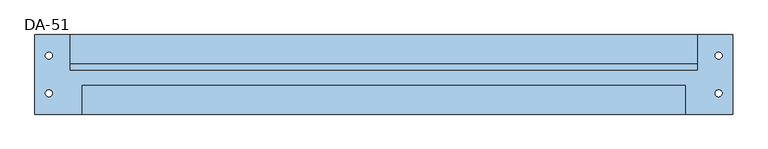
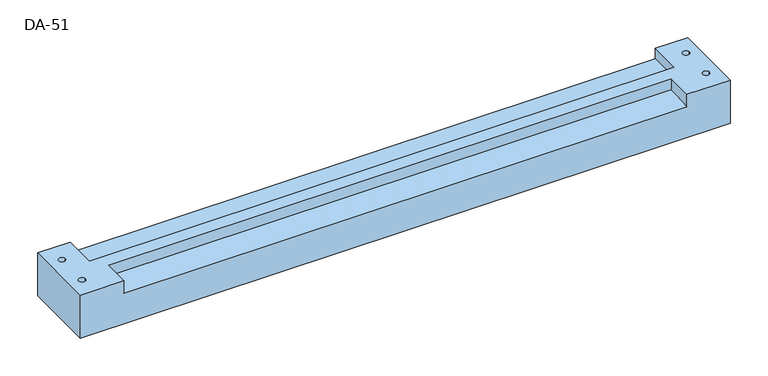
"""IFC4 building model written with IfcOpenShell, lengths in millimetres: window geometry, 30_NS_DA_51-57 : DA-51."""

from ifc_helpers import new_model, si_unit, frame, origin, place, context, project, spatial, polyline, circle_curve, source, transform, mapped, element, save
from ifc_brep_helpers import plane_surface, revolved_surface, advanced_brep


def da_51_ab8a1172(model_context):
    return source(origin(), model_context, "Body", "AdvancedBrep", [
        advanced_brep(
        [(0.0, -114.0, 0.0), (0.0, 0.0, 0.0), (1000.0, 0.0, 0.0), (1000.0, -114.0, 0.0), (15.0, -84.0, 0.0), (25.0, -84.0, 0.0), (975.0, -30.0, 0.0), (985.0, -30.0, 0.0), (975.0, -84.0, 0.0), (985.0, -84.0, 0.0), (15.0, -30.0, 0.0), (25.0, -30.0, 0.0), (50.0, 0.0, 70.0), (0.0, 0.0, 70.0), (0.0, -114.0, 70.0), (67.0, -114.0, 70.0), (67.0, -72.0, 70.0), (933.0, -72.0, 70.0), (933.0, -114.0, 70.0), (1000.0, -114.0, 70.0), (1000.0, 0.0, 70.0), (950.0, 0.0, 70.0), (950.0, -51.0, 70.0), (50.0, -51.0, 70.0), (25.0, -84.0, 70.0), (15.0, -84.0, 70.0), (985.0, -30.0, 70.0), (975.0, -30.0, 70.0), (985.0, -84.0, 70.0), (975.0, -84.0, 70.0), (25.0, -30.0, 70.0), (15.0, -30.0, 70.0), (67.0, -72.0, 52.0831202), (67.0, -114.0, 50.2493606), (933.0, -114.0, 50.2493606), (933.0, -72.0, 52.0831202), (50.0, -41.0, 48.0), (50.0, -51.0, 48.0), (933.0, -51.0, 48.0), (950.0, -51.0, 48.0), (950.0, -41.0, 48.0), (50.0, -41.0, 53.0), (950.0, -41.0, 53.0), (50.0, 0.0, 53.0), (950.0, 0.0, 53.0)],
        [
            (0, 1),
            (1, 2),
            (2, 3),
            (3, 0),
            (4, 5, circle_curve(frame((20.0, -84.0, 0.0), z_axis=(0.0, 0.0, 1.0), x_axis=(1.0, 0.0, 0.0)), 5.0)),
            (5, 4, circle_curve(frame((20.0, -84.0, 0.0), z_axis=(0.0, 0.0, 1.0), x_axis=(1.0, 0.0, 0.0)), 5.0)),
            (6, 7, circle_curve(frame((980.0, -30.0, 0.0), z_axis=(0.0, 0.0, 1.0), x_axis=(1.0, 0.0, 0.0)), 5.0)),
            (7, 6, circle_curve(frame((980.0, -30.0, 0.0), z_axis=(0.0, 0.0, 1.0), x_axis=(1.0, 0.0, 0.0)), 5.0)),
            (8, 9, circle_curve(frame((980.0, -84.0, 0.0), z_axis=(0.0, 0.0, 1.0), x_axis=(1.0, 0.0, 0.0)), 5.0)),
            (9, 8, circle_curve(frame((980.0, -84.0, 0.0), z_axis=(0.0, 0.0, 1.0), x_axis=(1.0, 0.0, 0.0)), 5.0)),
            (10, 11, circle_curve(frame((20.0, -30.0, 0.0), z_axis=(0.0, 0.0, 1.0), x_axis=(1.0, 0.0, 0.0)), 5.0)),
            (11, 10, circle_curve(frame((20.0, -30.0, 0.0), z_axis=(0.0, 0.0, 1.0), x_axis=(1.0, 0.0, 0.0)), 5.0)),
            (12, 13),
            (13, 14),
            (14, 15),
            (15, 16),
            (16, 17),
            (17, 18),
            (18, 19),
            (19, 20),
            (20, 21),
            (21, 22),
            (22, 23),
            (23, 12),
            (24, 25, circle_curve(frame((20.0, -84.0, 70.0), z_axis=(0.0, 0.0, -1.0), x_axis=(1.0, 0.0, 0.0)), 5.0)),
            (25, 24, circle_curve(frame((20.0, -84.0, 70.0), z_axis=(0.0, 0.0, -1.0), x_axis=(1.0, 0.0, 0.0)), 5.0)),
            (26, 27, circle_curve(frame((980.0, -30.0, 70.0), z_axis=(0.0, 0.0, -1.0), x_axis=(1.0, 0.0, 0.0)), 5.0)),
            (27, 26, circle_curve(frame((980.0, -30.0, 70.0), z_axis=(0.0, 0.0, -1.0), x_axis=(1.0, 0.0, 0.0)), 5.0)),
            (28, 29, circle_curve(frame((980.0, -84.0, 70.0), z_axis=(0.0, 0.0, -1.0), x_axis=(1.0, 0.0, 0.0)), 5.0)),
            (29, 28, circle_curve(frame((980.0, -84.0, 70.0), z_axis=(0.0, 0.0, -1.0), x_axis=(1.0, 0.0, 0.0)), 5.0)),
            (30, 31, circle_curve(frame((20.0, -30.0, 70.0), z_axis=(0.0, 0.0, -1.0), x_axis=(1.0, 0.0, 0.0)), 5.0)),
            (31, 30, circle_curve(frame((20.0, -30.0, 70.0), z_axis=(0.0, 0.0, -1.0), x_axis=(1.0, 0.0, 0.0)), 5.0)),
            (2, 20),
            (19, 3),
            (32, 33),
            (33, 34),
            (34, 35),
            (35, 32),
            (16, 32),
            (35, 17),
            (36, 37),
            (37, 38),
            (38, 39),
            (39, 40),
            (40, 36),
            (41, 36),
            (40, 42),
            (42, 41),
            (43, 41),
            (42, 44),
            (44, 43),
            (23, 37),
            (43, 12),
            (22, 39),
            (15, 33),
            (14, 0),
            (18, 34),
            (13, 1),
            (44, 21),
            (4, 25),
            (24, 5),
            (6, 27),
            (26, 7),
            (8, 29),
            (28, 9),
            (10, 31),
            (30, 11),
        ],
        [
            plane_surface(frame((0.0, 0.0, 0.0), z_axis=(0.0, 0.0, -1.0), x_axis=(1.0, 0.0, 0.0))),
            plane_surface(frame((0.0, 0.0, 70.0), z_axis=(0.0, 0.0, 1.0), x_axis=(1.0, 0.0, 0.0))),
            plane_surface(frame((1000.0, 0.0, 0.0), z_axis=(1.0, 0.0, 0.0), x_axis=(0.0, 0.0, 1.0))),
            plane_surface(frame((0.0, -114.0, 50.2493606), z_axis=(0.0, -0.04361938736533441, 0.9990482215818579), x_axis=(1.0, 0.0, 0.0))),
            plane_surface(frame((0.0, -72.0, 52.0831202), z_axis=(0.0, -1.0, 0.0), x_axis=(1.0, 0.0, 0.0))),
            plane_surface(frame((0.0, -51.0, 48.0), z_axis=(0.0, 0.0, 1.0), x_axis=(1.0, 0.0, 0.0))),
            plane_surface(frame((0.0, -41.0, 48.0), z_axis=(0.0, -1.0, 0.0), x_axis=(1.0, 0.0, 0.0))),
            plane_surface(frame((0.0, -41.0, 53.0), z_axis=(0.0, 0.0, 1.0), x_axis=(1.0, 0.0, 0.0))),
            plane_surface(frame((50.0, 0.0, 0.0), z_axis=(1.0, 0.0, 0.0), x_axis=(0.0, 0.0, 1.0))),
            plane_surface(frame((50.0, -51.0, 0.0), z_axis=(0.0, 1.0, 0.0), x_axis=(0.0, 0.0, 1.0))),
            plane_surface(frame((67.0, -51.0, 0.0), z_axis=(1.0, 0.0, 0.0), x_axis=(0.0, 0.0, 1.0))),
            plane_surface(frame((67.0, -114.0, 0.0), z_axis=(0.0, -1.0, 0.0), x_axis=(0.0, 0.0, 1.0))),
            plane_surface(frame((0.0, -114.0, 0.0), z_axis=(-1.0, 0.0, 0.0), x_axis=(0.0, 0.0, 1.0))),
            plane_surface(frame((0.0, 0.0, 0.0), z_axis=(0.0, 1.0, 0.0), x_axis=(0.0, 0.0, 1.0))),
            plane_surface(frame((933.0, -114.0, 0.0), z_axis=(-1.0, 0.0, 0.0), x_axis=(0.0, 0.0, 1.0))),
            plane_surface(frame((950.0, -51.0, 0.0), z_axis=(-1.0, 0.0, 0.0), x_axis=(0.0, 0.0, 1.0))),
            revolved_surface(polyline([(25.0, -84.0, 0.0), (25.0, -84.0, 70.0)]), (20.0, -84.0, 0.0), (0.0, 0.0, -1.0)),
            revolved_surface(polyline([(985.0, -30.0, 0.0), (985.0, -30.0, 70.0)]), (980.0, -30.0, 0.0), (0.0, 0.0, -1.0)),
            revolved_surface(polyline([(985.0, -84.0, 0.0), (985.0, -84.0, 70.0)]), (980.0, -84.0, 0.0), (0.0, 0.0, -1.0)),
            revolved_surface(polyline([(25.0, -30.0, 0.0), (25.0, -30.0, 70.0)]), (20.0, -30.0, 0.0), (0.0, 0.0, -1.0)),
        ],
        [
            (0, [[1, 2, 3, 4], [5, 6], [7, 8], [9, 10], [11, 12]]),
            (1, [[13, 14, 15, 16, 17, 18, 19, 20, 21, 22, 23, 24], [25, 26], [27, 28], [29, 30], [31, 32]]),
            (2, [[-3, 33, -20, 34]]),
            (3, [[35, 36, 37, 38]]),
            (4, [[39, -38, 40, -17]]),
            (5, [[41, 42, 43, 44, 45]]),
            (6, [[46, -45, 47, 48]]),
            (7, [[49, -48, 50, 51]]),
            (8, [[-24, 52, -41, -46, -49, 53]]),
            (9, [[-52, -23, 54, -43, -42]]),
            (10, [[-16, 55, -35, -39]]),
            (11, [[-15, 56, -4, -34, -19, 57, -36, -55]]),
            (12, [[-1, -56, -14, 58]]),
            (13, [[-13, -53, -51, 59, -21, -33, -2, -58]]),
            (14, [[-18, -40, -37, -57]]),
            (15, [[-22, -59, -50, -47, -44, -54]]),
            (16, [[60, -25, 61, -5]]),
            (16, [[-60, -6, -61, -26]]),
            (17, [[62, -27, 63, -7]]),
            (17, [[-62, -8, -63, -28]]),
            (18, [[64, -29, 65, -9]]),
            (18, [[-64, -10, -65, -30]]),
            (19, [[66, -31, 67, -11]]),
            (19, [[-66, -12, -67, -32]]),
        ],
    ),
    ])


if __name__ == "__main__":
    model = new_model("IFC4")
    model_context = context("Model", 3, world=origin())
    ifc_project = project(units=[si_unit("LENGTHUNIT", "METRE", prefix="MILLI")], contexts=[model_context])
    site = spatial("IfcSite", under=ifc_project)
    building = spatial("IfcBuilding", under=site)
    placement = place(None, origin())
    da_51_shape = da_51_ab8a1172(model_context)
    element("IfcWindow", 1, ObjectType="30_NS_DA_51-57 : DA-51", at=placement, inside=building, context=model_context, shape_type="MappedRepresentation", body=[
        mapped(da_51_shape, transform((0.0, 0.0, 0.0), x_axis=(1.0, 0.0, 0.0), y_axis=(0.0, 1.0, 0.0), z_axis=(0.0, 0.0, 1.0))),
    ])
    save(model, "model.ifc")
